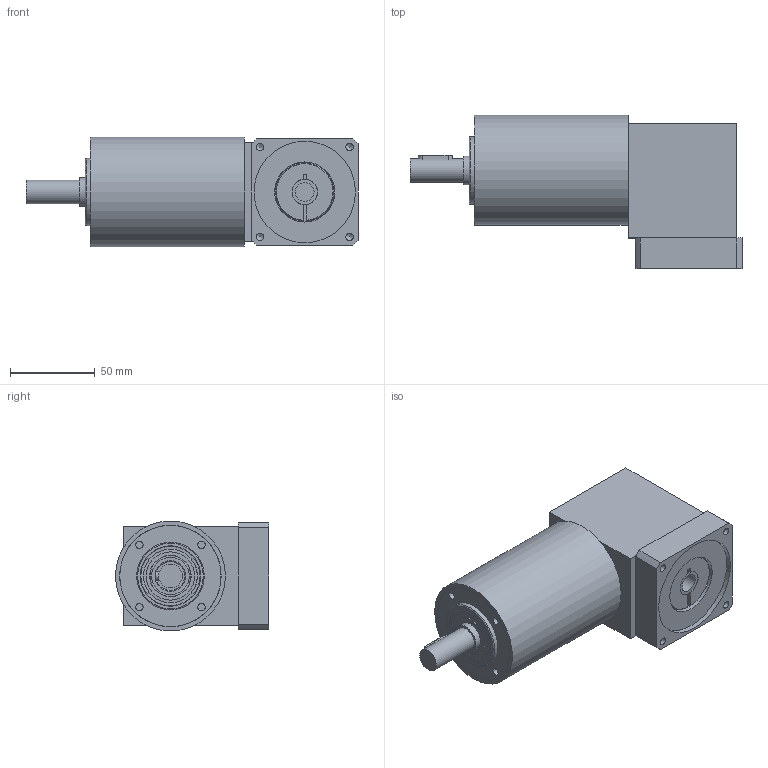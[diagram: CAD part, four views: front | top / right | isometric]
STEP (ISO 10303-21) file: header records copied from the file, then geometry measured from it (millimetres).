
FILE_DESCRIPTION(/* description */ (''),/* implementation_level */ '2;1');
FILE_NAME(/* name */ 'E0001806MP160508151131',/* time_stamp */ '2008-05-16T15:16:02+02:00',/* author */ (''),/* organization */ (''),/* preprocessor_version */ 'ST-DEVELOPER v9',/* originating_system */ 'EDS PLM SOLUTIONS - UNIGRAPHICS NX 2.0',/* authorisation */ '');
FILE_SCHEMA (('CONFIG_CONTROL_DESIGN'));
Length unit declared in the file: millimetre
Products named in the file (1): E0001806MP160508151131_u3d
Bounding box: 196.35 x 90.5 x 65 mm (x, y, z)
Volume: 721206.1 mm3; surface area: 109392.5 mm2
Topology: 14 solids, 14 shells, 161 faces, 345 edges, 221 vertices
Faces by surface type: plane 59, cylinder 59, cone 33, torus 10
Full cylindrical faces by diameter (mm): 3.432 x9, 4.351 x8, 4.5 x1, 7.5 x1, 9.75 x1, 11 x1, 14 x1, 15 x1, 17 x2, 22.2 x2, 24.5 x2, 32.9 x2, 35 x4, 35.5 x1, 40 x1, 43 x2, 50 x2, 57.4 x1, 59.85 x1, 60 x3, 65 x1
Entity records: 3871 total; most frequent: CARTESIAN_POINT 707, DIRECTION 678, ORIENTED_EDGE 450, AXIS2_PLACEMENT_3D 300, EDGE_LOOP 269, EDGE_CURVE 225, VERTEX_POINT 200, FACE_BOUND 181
